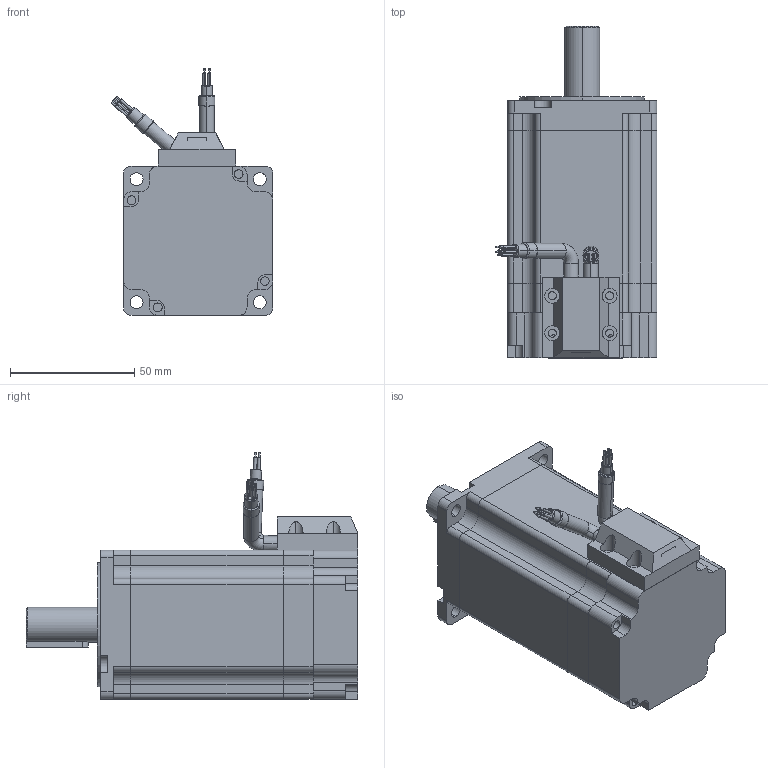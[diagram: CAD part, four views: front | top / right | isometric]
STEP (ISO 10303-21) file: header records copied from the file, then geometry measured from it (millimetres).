
FILE_DESCRIPTION (( 'STEP AP214' ), '1' );
FILE_NAME ('SPS60H4EC.STEP', '2021-07-15T04:25:20', ( 'MM' ), ( 'Microsoft' ), 'SwSTEP 2.0', 'SolidWorks 2020', '' );
FILE_SCHEMA (( 'AUTOMOTIVE_DESIGN' ));
Length unit declared in the file: millimetre
Products named in the file (1): SPS60H4EC
Bounding box: 64.99 x 133.3 x 99.36 mm (x, y, z)
Volume: 299855.7 mm3; surface area: 53331 mm2
Topology: 5 solids, 5 shells, 353 faces, 929 edges, 611 vertices
Faces by surface type: cylinder 172, plane 157, torus 14, bspline 7, cone 3
Entity records: 12766 total; most frequent: CARTESIAN_POINT 2331, DIRECTION 1989, ORIENTED_EDGE 1858, EDGE_CURVE 929, AXIS2_PLACEMENT_3D 737, VERTEX_POINT 611, LINE 515, VECTOR 515
